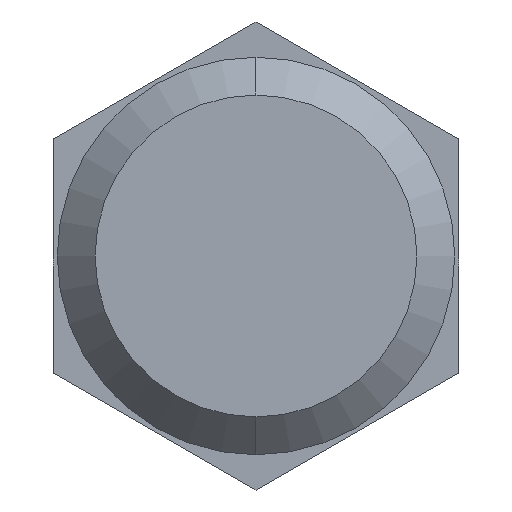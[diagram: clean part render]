
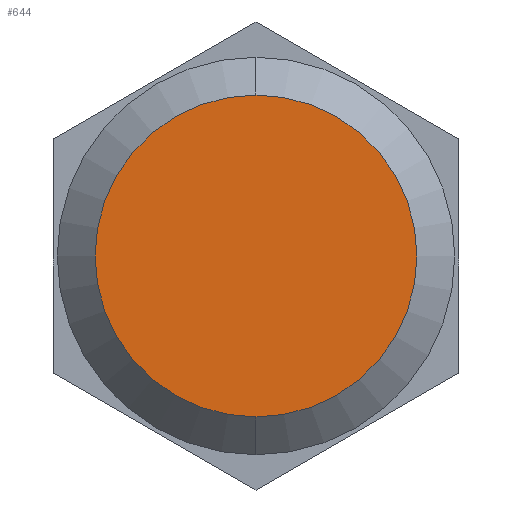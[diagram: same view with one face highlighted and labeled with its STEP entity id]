
A CAD part, left-side view. The second image highlights one B-rep face of the part: STEP entity #644.
In plain terms, the highlighted planar face has unit normal (-1, 0, 0).
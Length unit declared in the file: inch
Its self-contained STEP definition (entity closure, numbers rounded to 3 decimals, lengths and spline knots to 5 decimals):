
#29 = VERTEX_POINT ( 'NONE', #301 ) ;
#41 = VERTEX_POINT ( 'NONE', #300 ) ;
#68 = CIRCLE ( 'NONE', #431, 0.3542 ) ;
#135 = EDGE_LOOP ( 'NONE', ( #224, #174 ) ) ;
#174 = ORIENTED_EDGE ( 'NONE', *, *, #362, .F. ) ;
#176 = CIRCLE ( 'NONE', #444, 0.3542 ) ;
#224 = ORIENTED_EDGE ( 'NONE', *, *, #375, .F. ) ;
#284 = FACE_OUTER_BOUND ( 'NONE', #135, .T. ) ;
#300 = CARTESIAN_POINT ( 'NONE',  ( -4.756, 0., -0.3542 ) ) ;
#301 = CARTESIAN_POINT ( 'NONE',  ( -4.756, 0., 0.3542 ) ) ;
#303 = CARTESIAN_POINT ( 'NONE',  ( -4.756, 0., 0. ) ) ;
#304 = DIRECTION ( 'NONE',  ( 0., 0., -1. ) ) ;
#307 = DIRECTION ( 'NONE',  ( 1., 0., 0. ) ) ;
#362 = EDGE_CURVE ( 'NONE', #29, #41, #176, .T. ) ;
#375 = EDGE_CURVE ( 'NONE', #41, #29, #68, .T. ) ;
#412 = AXIS2_PLACEMENT_3D ( 'NONE', #489, #490, #491 ) ;
#431 = AXIS2_PLACEMENT_3D ( 'NONE', #303, #307, #304 ) ;
#444 = AXIS2_PLACEMENT_3D ( 'NONE', #675, #676, #464 ) ;
#464 = DIRECTION ( 'NONE',  ( 0., 0., -1. ) ) ;
#480 = PLANE ( 'NONE',  #412 ) ;
#489 = CARTESIAN_POINT ( 'NONE',  ( -4.756, 0.3542, 0. ) ) ;
#490 = DIRECTION ( 'NONE',  ( -1., 0., 0. ) ) ;
#491 = DIRECTION ( 'NONE',  ( 0., 0., 1. ) ) ;
#644 = ADVANCED_FACE ( 'NONE', ( #284 ), #480, .T. ) ;
#675 = CARTESIAN_POINT ( 'NONE',  ( -4.756, 0., 0. ) ) ;
#676 = DIRECTION ( 'NONE',  ( 1., 0., 0. ) ) ;
